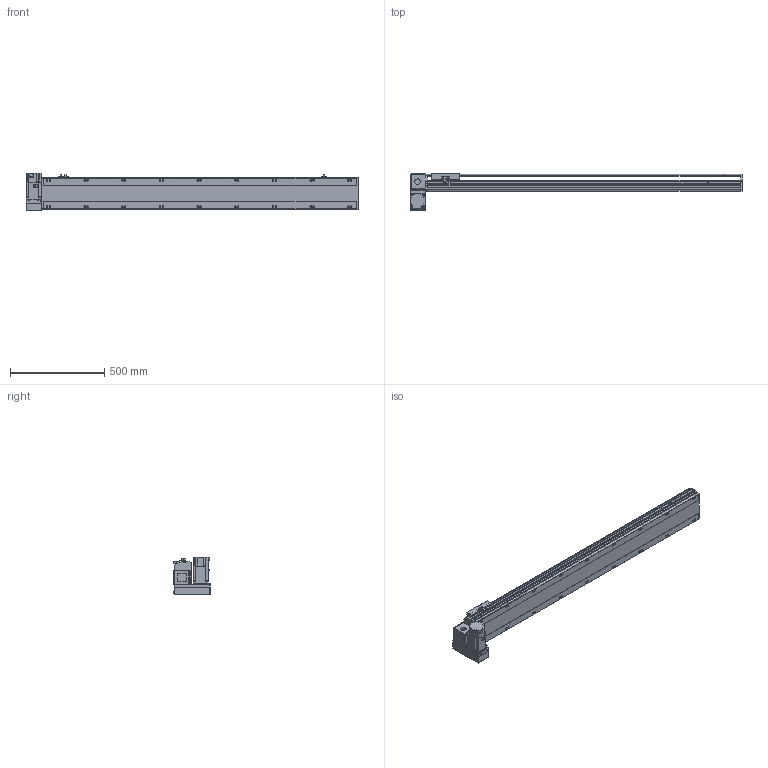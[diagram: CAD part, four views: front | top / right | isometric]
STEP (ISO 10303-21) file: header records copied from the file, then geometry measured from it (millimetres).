
FILE_DESCRIPTION( ( 'STEP AP214' ), '1' );
FILE_NAME( 'x:/temp/worker_4/temp/exporttempdir_2248_333_1LR4V/format_0/PBS170-P40-S1400-LD-T75-C1-N(0).stp', '2022-06-07T07:53:33', ( 'License CC BY-ND 4.0' ), ( 'CADENAS' ), ' ', 'PARTsolutions', ' ' );
FILE_SCHEMA( ( 'AUTOMOTIVE_DESIGN { 1 0 10303 214 1 1 1 1 }' ) );
Length unit declared in the file: millimetre
Products named in the file (7): PBS170-P40-S1400-LD-T75-C1-N(0); _PBS170-S1400()_body; _PBS170T-LD_motors; _T75-p1; _PBS170_sliser; _PBS170_plant; _PBS170_sensor
Assembly tree (8 placements, depth 2):
  PBS170-P40-S1400-LD-T75-C1-N(0)
    _PBS170-S1400()_body
    _PBS170T-LD_motors
    _T75-p1
    _PBS170_sliser
    _PBS170_plant
    _PBS170_sensor  x3
Bounding box: 1763 x 201 x 197.3 mm (x, y, z)
Volume: 13842785.7 mm3; surface area: 1783161.1 mm2
Topology: 8 solids, 8 shells, 1098 faces, 2915 edges, 1900 vertices
Faces by surface type: plane 693, cylinder 347, cone 48, sphere 8, torus 2
Full cylindrical faces by diameter (mm): 3.242 x4, 4 x2, 4.4 x4, 4.5 x6, 4.917 x4, 6 x9, 6.647 x26, 7 x2, 7.5 x4, 8 x8, 8.5 x18, 10 x4, 10.5 x18, 11 x2, 30 x2, 40 x1, 70 x1
Entity records: 40382 total; most frequent: CARTESIAN_POINT 6389, DIRECTION 5370, ORIENTED_EDGE 5088, EDGE_CURVE 2544, AXIS2_PLACEMENT_3D 1867, VERTEX_POINT 1754, LINE 1636, VECTOR 1636
